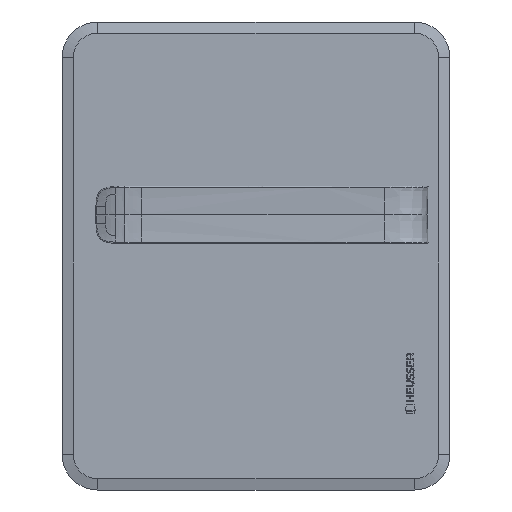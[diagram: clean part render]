
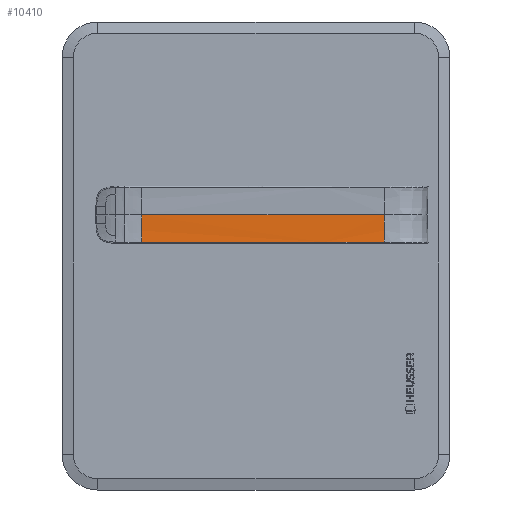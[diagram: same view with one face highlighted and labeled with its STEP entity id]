
A CAD part, top view. The second image highlights one B-rep face of the part: STEP entity #10410.
In plain terms, the highlighted free-form (B-spline) face has degree [5, 1] with [6, 2] control points.
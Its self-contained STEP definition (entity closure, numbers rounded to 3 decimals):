
#183=B_SPLINE_SURFACE_WITH_KNOTS('',5,1,((#22446,#22447),(#22448,#22449),
(#22450,#22451),(#22452,#22453),(#22454,#22455),(#22456,#22457)),
 .UNSPECIFIED.,.F.,.F.,.F.,(6,6),(2,2),(0.,1.),(0.,1.),.UNSPECIFIED.);
#546=B_SPLINE_CURVE_WITH_KNOTS('',3,(#19831,#19832,#19833,#19834,#19835,
#19836,#19837,#19838,#19839,#19840,#19841,#19842,#19843,#19844,#19845,#19846,
#19847,#19848,#19849),.UNSPECIFIED.,.F.,.F.,(4,3,3,3,3,3,4),(0.,0.398,
0.558,0.796,0.914,1.195,
3.187),.UNSPECIFIED.);
#547=B_SPLINE_CURVE_WITH_KNOTS('',3,(#19851,#19852,#19853,#19854,#19855,
#19856,#19857,#19858,#19859,#19860,#19861,#19862,#19863),.UNSPECIFIED.,
 .F.,.F.,(4,3,3,3,4),(3.187,11.154,11.571,
11.951,12.747),.UNSPECIFIED.);
#572=B_SPLINE_CURVE_WITH_KNOTS('',5,(#22109,#22110,#22111,#22112,#22113,
#22114),.UNSPECIFIED.,.F.,.F.,(6,6),(0.034,0.5),
 .UNSPECIFIED.);
#585=B_SPLINE_CURVE_WITH_KNOTS('',5,(#22458,#22459,#22460,#22461,#22462,
#22463),.UNSPECIFIED.,.F.,.F.,(6,6),(0.034,0.5),
 .UNSPECIFIED.);
#1264=LINE('',#22439,#2114);
#2114=VECTOR('',#12528,10.);
#2961=FACE_OUTER_BOUND('',#3613,.T.);
#3613=EDGE_LOOP('',(#8287,#8288,#8289,#8290,#8291));
#4575=VERTEX_POINT('',#19762);
#4576=VERTEX_POINT('',#19830);
#4577=VERTEX_POINT('',#19850);
#4594=VERTEX_POINT('',#22059);
#4603=VERTEX_POINT('',#22438);
#5844=EDGE_CURVE('',#4575,#4576,#546,.T.);
#5845=EDGE_CURVE('',#4576,#4577,#547,.T.);
#5874=EDGE_CURVE('',#4577,#4594,#572,.T.);
#5890=EDGE_CURVE('',#4594,#4603,#1264,.T.);
#5892=EDGE_CURVE('',#4575,#4603,#585,.T.);
#8287=ORIENTED_EDGE('',*,*,#5874,.F.);
#8288=ORIENTED_EDGE('',*,*,#5845,.F.);
#8289=ORIENTED_EDGE('',*,*,#5844,.F.);
#8290=ORIENTED_EDGE('',*,*,#5892,.T.);
#8291=ORIENTED_EDGE('',*,*,#5890,.F.);
#10410=ADVANCED_FACE('',(#2961),#183,.F.);
#12528=DIRECTION('',(1.,0.001,-0.004));
#19762=CARTESIAN_POINT('',(45.225,11.86,99.926));
#19830=CARTESIAN_POINT('',(13.357,11.837,100.062));
#19831=CARTESIAN_POINT('Ctrl Pts',(45.225,11.86,99.926));
#19832=CARTESIAN_POINT('Ctrl Pts',(43.897,11.859,99.931));
#19833=CARTESIAN_POINT('Ctrl Pts',(42.569,11.858,99.937));
#19834=CARTESIAN_POINT('Ctrl Pts',(41.241,11.857,99.943));
#19835=CARTESIAN_POINT('Ctrl Pts',(40.689,11.857,99.945));
#19836=CARTESIAN_POINT('Ctrl Pts',(40.137,11.856,99.947));
#19837=CARTESIAN_POINT('Ctrl Pts',(39.585,11.856,99.95));
#19838=CARTESIAN_POINT('Ctrl Pts',(38.81,11.855,99.953));
#19839=CARTESIAN_POINT('Ctrl Pts',(38.036,11.855,99.956));
#19840=CARTESIAN_POINT('Ctrl Pts',(37.261,11.854,99.96));
#19841=CARTESIAN_POINT('Ctrl Pts',(36.849,11.854,99.961));
#19842=CARTESIAN_POINT('Ctrl Pts',(36.437,11.854,99.963));
#19843=CARTESIAN_POINT('Ctrl Pts',(36.025,11.853,99.965));
#19844=CARTESIAN_POINT('Ctrl Pts',(35.109,11.853,99.969));
#19845=CARTESIAN_POINT('Ctrl Pts',(34.193,11.852,99.973));
#19846=CARTESIAN_POINT('Ctrl Pts',(33.277,11.851,99.977));
#19847=CARTESIAN_POINT('Ctrl Pts',(26.637,11.847,100.005));
#19848=CARTESIAN_POINT('Ctrl Pts',(19.997,11.842,100.034));
#19849=CARTESIAN_POINT('Ctrl Pts',(13.357,11.837,100.062));
#19850=CARTESIAN_POINT('',(-82.248,11.768,100.472));
#19851=CARTESIAN_POINT('Ctrl Pts',(13.357,11.837,100.062));
#19852=CARTESIAN_POINT('Ctrl Pts',(-13.2,11.818,100.176));
#19853=CARTESIAN_POINT('Ctrl Pts',(-39.757,11.798,100.29));
#19854=CARTESIAN_POINT('Ctrl Pts',(-66.315,11.779,100.404));
#19855=CARTESIAN_POINT('Ctrl Pts',(-67.693,11.778,100.41));
#19856=CARTESIAN_POINT('Ctrl Pts',(-69.071,11.777,100.416));
#19857=CARTESIAN_POINT('Ctrl Pts',(-70.449,11.776,100.422));
#19858=CARTESIAN_POINT('Ctrl Pts',(-71.726,11.775,100.427));
#19859=CARTESIAN_POINT('Ctrl Pts',(-73.004,11.774,100.433));
#19860=CARTESIAN_POINT('Ctrl Pts',(-74.281,11.774,100.438));
#19861=CARTESIAN_POINT('Ctrl Pts',(-76.937,11.772,100.449));
#19862=CARTESIAN_POINT('Ctrl Pts',(-79.593,11.77,100.461));
#19863=CARTESIAN_POINT('Ctrl Pts',(-82.248,11.768,100.472));
#22059=CARTESIAN_POINT('',(-82.259,26.157,99.938));
#22109=CARTESIAN_POINT('Ctrl Pts',(-82.248,11.768,100.472));
#22110=CARTESIAN_POINT('Ctrl Pts',(-82.25,13.557,100.194));
#22111=CARTESIAN_POINT('Ctrl Pts',(-82.252,16.058,100.049));
#22112=CARTESIAN_POINT('Ctrl Pts',(-82.254,19.208,99.975));
#22113=CARTESIAN_POINT('Ctrl Pts',(-82.256,22.682,99.938));
#22114=CARTESIAN_POINT('Ctrl Pts',(-82.259,26.157,99.938));
#22438=CARTESIAN_POINT('',(45.215,26.249,99.391));
#22439=CARTESIAN_POINT('',(-82.259,26.157,99.938));
#22446=CARTESIAN_POINT('Ctrl Pts',(45.204,41.249,100.034));
#22447=CARTESIAN_POINT('Ctrl Pts',(-82.27,41.157,100.581));
#22448=CARTESIAN_POINT('Ctrl Pts',(45.206,37.857,99.348));
#22449=CARTESIAN_POINT('Ctrl Pts',(-82.267,37.764,99.895));
#22450=CARTESIAN_POINT('Ctrl Pts',(45.211,31.149,99.348));
#22451=CARTESIAN_POINT('Ctrl Pts',(-82.262,31.057,99.895));
#22452=CARTESIAN_POINT('Ctrl Pts',(45.218,21.349,99.348));
#22453=CARTESIAN_POINT('Ctrl Pts',(-82.255,21.257,99.895));
#22454=CARTESIAN_POINT('Ctrl Pts',(45.223,14.642,99.348));
#22455=CARTESIAN_POINT('Ctrl Pts',(-82.25,14.55,99.895));
#22456=CARTESIAN_POINT('Ctrl Pts',(45.225,11.249,100.034));
#22457=CARTESIAN_POINT('Ctrl Pts',(-82.248,11.157,100.581));
#22458=CARTESIAN_POINT('Ctrl Pts',(45.225,11.86,99.926));
#22459=CARTESIAN_POINT('Ctrl Pts',(45.224,13.649,99.647));
#22460=CARTESIAN_POINT('Ctrl Pts',(45.222,16.15,99.503));
#22461=CARTESIAN_POINT('Ctrl Pts',(45.22,19.3,99.428));
#22462=CARTESIAN_POINT('Ctrl Pts',(45.217,22.775,99.391));
#22463=CARTESIAN_POINT('Ctrl Pts',(45.215,26.249,99.391));
